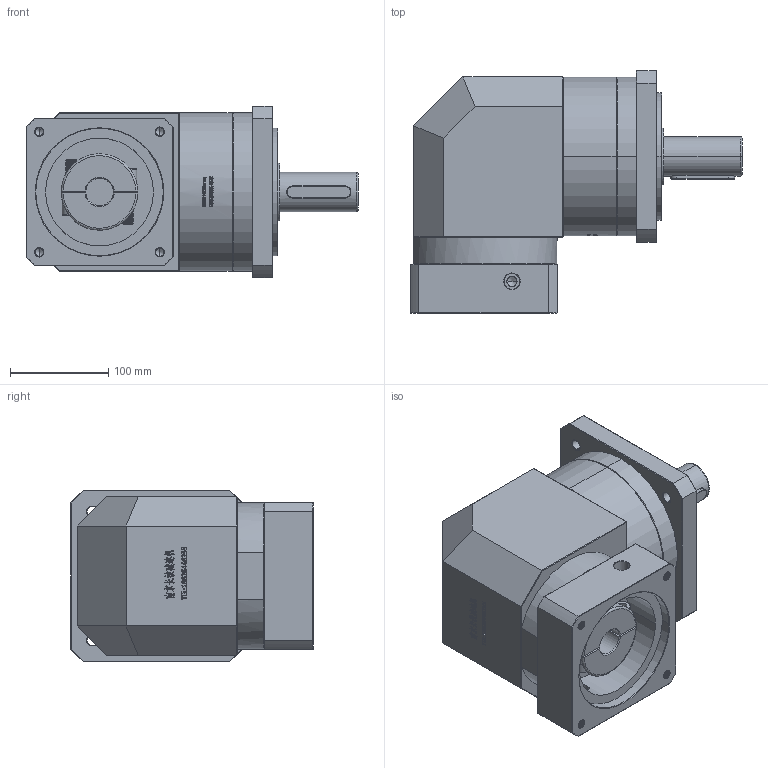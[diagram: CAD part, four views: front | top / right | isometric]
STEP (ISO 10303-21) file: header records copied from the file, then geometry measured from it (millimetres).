
FILE_DESCRIPTION (( 'STEP AP214' ), '1' );
FILE_NAME ('ZFR160A-D40-L1-28-130-174-M10.step', '2023-03-22T11:43:16', ( '' ), ( '' ), 'SwSTEP 2.0', 'SolidWorks 2016', '' );
FILE_SCHEMA (( 'AUTOMOTIVE_DESIGN' ));
Length unit declared in the file: millimetre
Products named in the file (1): ZFR160A-D40-L1-28-130-174-M10
Bounding box: 338.7 x 247.5 x 175 mm (x, y, z)
Volume: 6627217.5 mm3; surface area: 441111.8 mm2
Topology: 6 solids, 6 shells, 2516 faces, 6618 edges, 4255 vertices
Faces by surface type: plane 1275, bspline 501, cylinder 411, cone 307, torus 22
Entity records: 143731 total; most frequent: CARTESIAN_POINT 58366, ORIENTED_EDGE 13176, DIRECTION 10009, EDGE_CURVE 6588, VERTEX_POINT 4255, VECTOR 4151, LINE 4151, AXIS2_PLACEMENT_3D 2929
